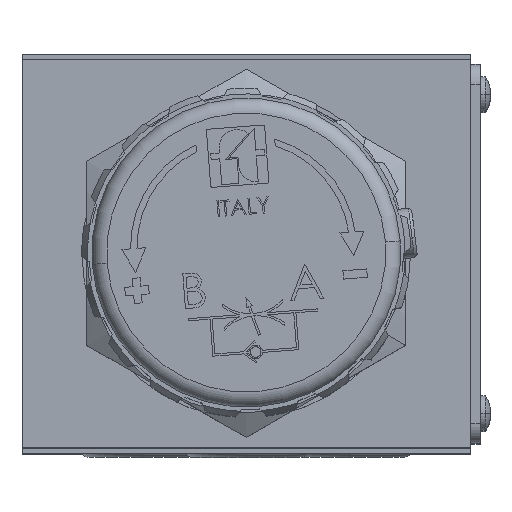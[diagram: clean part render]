
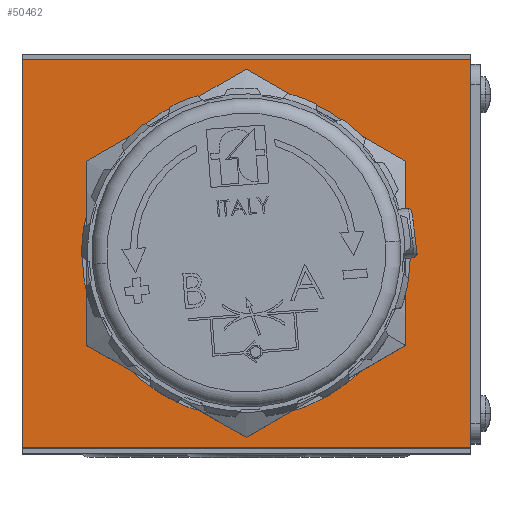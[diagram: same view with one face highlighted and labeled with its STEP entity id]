
A CAD part, top view. The second image highlights one B-rep face of the part: STEP entity #50462.
In plain terms, the highlighted planar face has unit normal (0, 0, 1).
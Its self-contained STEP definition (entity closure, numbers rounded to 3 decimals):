
#341 = CARTESIAN_POINT ( 'NONE',  ( -16.5, 0., 47.5 ) ) ;
#610 = EDGE_CURVE ( 'NONE', #5791, #25187, #33391, .T. ) ;
#963 = VECTOR ( 'NONE', #62628, 1000. ) ;
#1414 = CIRCLE ( 'NONE', #70616, 16.5 ) ;
#3383 = VECTOR ( 'NONE', #6096, 1000. ) ;
#4015 = LINE ( 'NONE', #67045, #48183 ) ;
#5791 = VERTEX_POINT ( 'NONE', #48593 ) ;
#6096 = DIRECTION ( 'NONE',  ( -1., 0., 0. ) ) ;
#6324 = EDGE_CURVE ( 'NONE', #5791, #43429, #4015, .T. ) ;
#8192 = ORIENTED_EDGE ( 'NONE', *, *, #23104, .F. ) ;
#9644 = EDGE_CURVE ( 'NONE', #31957, #12372, #14088, .T. ) ;
#10641 = CARTESIAN_POINT ( 'NONE',  ( -22.5, 19.5, 47.5 ) ) ;
#10851 = FACE_OUTER_BOUND ( 'NONE', #60251, .T. ) ;
#12372 = VERTEX_POINT ( 'NONE', #51236 ) ;
#14088 = CIRCLE ( 'NONE', #25502, 16.5 ) ;
#16098 = CARTESIAN_POINT ( 'NONE',  ( -22.5, -20., 47.5 ) ) ;
#17390 = EDGE_CURVE ( 'NONE', #38774, #25187, #68237, .T. ) ;
#18032 = EDGE_LOOP ( 'NONE', ( #8192, #66114 ) ) ;
#18577 = VECTOR ( 'NONE', #33833, 1000. ) ;
#18958 = ORIENTED_EDGE ( 'NONE', *, *, #6324, .T. ) ;
#21888 = DIRECTION ( 'NONE',  ( 1., 0., 0. ) ) ;
#23104 = EDGE_CURVE ( 'NONE', #12372, #31957, #1414, .T. ) ;
#24192 = DIRECTION ( 'NONE',  ( 0., 0., 1. ) ) ;
#25187 = VERTEX_POINT ( 'NONE', #60140 ) ;
#25502 = AXIS2_PLACEMENT_3D ( 'NONE', #61681, #27104, #67485 ) ;
#26343 = AXIS2_PLACEMENT_3D ( 'NONE', #16098, #56442, #21888 ) ;
#27104 = DIRECTION ( 'NONE',  ( 0., 0., 1. ) ) ;
#28034 = CARTESIAN_POINT ( 'NONE',  ( 22.5, 20., 47.5 ) ) ;
#29622 = CARTESIAN_POINT ( 'NONE',  ( 22.5, -19.5, 47.5 ) ) ;
#31957 = VERTEX_POINT ( 'NONE', #341 ) ;
#33391 = LINE ( 'NONE', #10641, #963 ) ;
#33833 = DIRECTION ( 'NONE',  ( 0., 1., 0. ) ) ;
#35827 = LINE ( 'NONE', #52017, #3383 ) ;
#38774 = VERTEX_POINT ( 'NONE', #29622 ) ;
#39475 = ORIENTED_EDGE ( 'NONE', *, *, #46163, .F. ) ;
#43429 = VERTEX_POINT ( 'NONE', #66223 ) ;
#44953 = ORIENTED_EDGE ( 'NONE', *, *, #610, .F. ) ;
#46163 = EDGE_CURVE ( 'NONE', #38774, #43429, #35827, .T. ) ;
#48183 = VECTOR ( 'NONE', #72843, 1000. ) ;
#48593 = CARTESIAN_POINT ( 'NONE',  ( -22.5, 19.5, 47.5 ) ) ;
#50462 = ADVANCED_FACE ( 'NONE', ( #72241, #10851 ), #67816, .T. ) ;
#51236 = CARTESIAN_POINT ( 'NONE',  ( 16.5, 0., 47.5 ) ) ;
#52017 = CARTESIAN_POINT ( 'NONE',  ( -22.5, -19.5, 47.5 ) ) ;
#56442 = DIRECTION ( 'NONE',  ( 0., 0., 1. ) ) ;
#58739 = CARTESIAN_POINT ( 'NONE',  ( 0., 0., 47.5 ) ) ;
#60140 = CARTESIAN_POINT ( 'NONE',  ( 22.5, 19.5, 47.5 ) ) ;
#60251 = EDGE_LOOP ( 'NONE', ( #39475, #70182, #44953, #18958 ) ) ;
#61681 = CARTESIAN_POINT ( 'NONE',  ( 0., 0., 47.5 ) ) ;
#62628 = DIRECTION ( 'NONE',  ( 1., 0., 0. ) ) ;
#64579 = DIRECTION ( 'NONE',  ( 1., 0., 0. ) ) ;
#66114 = ORIENTED_EDGE ( 'NONE', *, *, #9644, .F. ) ;
#66223 = CARTESIAN_POINT ( 'NONE',  ( -22.5, -19.5, 47.5 ) ) ;
#67045 = CARTESIAN_POINT ( 'NONE',  ( -22.5, 20., 47.5 ) ) ;
#67485 = DIRECTION ( 'NONE',  ( 1., 0., 0. ) ) ;
#67816 = PLANE ( 'NONE',  #26343 ) ;
#68237 = LINE ( 'NONE', #28034, #18577 ) ;
#70182 = ORIENTED_EDGE ( 'NONE', *, *, #17390, .T. ) ;
#70616 = AXIS2_PLACEMENT_3D ( 'NONE', #58739, #24192, #64579 ) ;
#72241 = FACE_BOUND ( 'NONE', #18032, .T. ) ;
#72843 = DIRECTION ( 'NONE',  ( 0., -1., 0. ) ) ;
